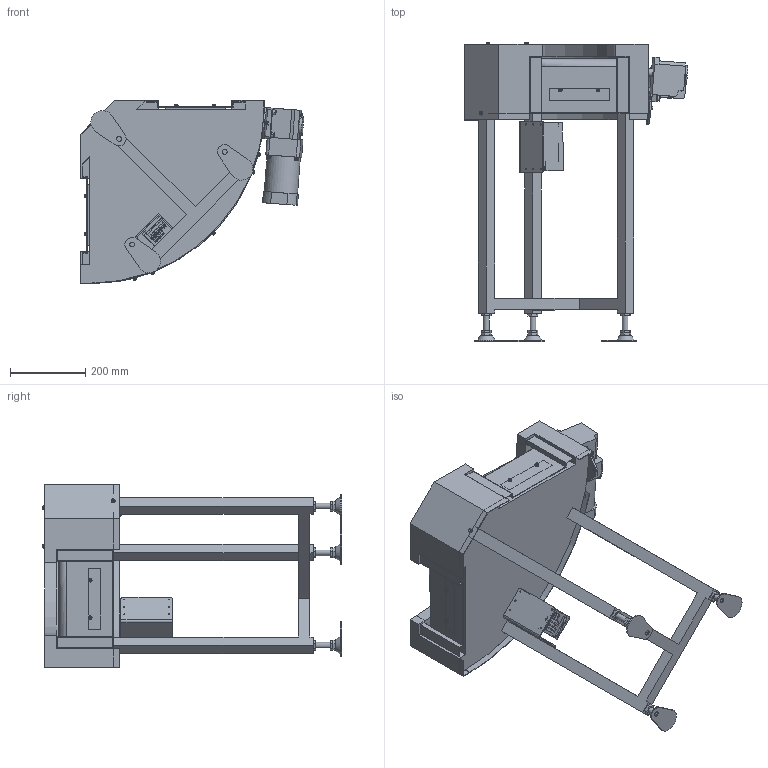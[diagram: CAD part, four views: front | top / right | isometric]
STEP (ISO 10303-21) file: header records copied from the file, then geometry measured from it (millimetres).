
FILE_DESCRIPTION( (''), '2;1');
FILE_NAME ('WEB-MBC2H-HS-309-200-90°-R-IVH-60-O.stp','2026-06-19T10:35:31',(''),(''),'spGate 21.9.5 (****-****-****-****)','','');
FILE_SCHEMA (('AUTOMOTIVE_DESIGN'));
Length unit declared in the file: millimetre
Products named in the file (37): WEB-MBC2H-HS-309-200-90_-R-IVH-60-O; TEMP_X_T-prt0; TEMP_X_T-prt1; TEMP_X_T-prt2; TEMP_X_T-prt3; TEMP_X_T-prt4; TEMP_X_T-prt5; TEMP_X_T-prt6; TEMP_X_T-prt7; TEMP_X_T-prt8; TEMP_X_T-prt9; TEMP_X_T-prt10; TEMP_X_T-prt11; TEMP_X_T-prt12; TEMP_X_T-prt13; TEMP_X_T-prt14; TEMP_X_T-prt15; TEMP_X_T-prt16; TEMP_X_T-prt17; TEMP_X_T-prt18; TEMP_X_T-prt19; TEMP_X_T-prt20; TEMP_X_T-prt21; TEMP_X_T-prt22; TEMP_X_T-prt23; TEMP_X_T-prt24; TEMP_X_T-prt25; TEMP_X_T-prt26; TEMP_X_T-prt27; TEMP_X_T-prt28; TEMP_X_T-prt29; TEMP_X_T-prt30; TEMP_X_T-prt31; TEMP_X_T-prt32; TEMP_X_T-prt33; TEMP_X_T-prt34; TEMP_X_T-prt35
Assembly tree (36 placements, depth 2):
  WEB-MBC2H-HS-309-200-90_-R-IVH-60-O
    TEMP_X_T-prt0
    TEMP_X_T-prt1
    TEMP_X_T-prt2
    TEMP_X_T-prt3
    TEMP_X_T-prt4
    TEMP_X_T-prt5
    TEMP_X_T-prt6
    TEMP_X_T-prt7
    TEMP_X_T-prt8
    TEMP_X_T-prt9
    TEMP_X_T-prt10
    TEMP_X_T-prt11
    TEMP_X_T-prt12
    TEMP_X_T-prt13
    TEMP_X_T-prt14
    TEMP_X_T-prt15
    TEMP_X_T-prt16
    TEMP_X_T-prt17
    TEMP_X_T-prt18
    TEMP_X_T-prt19
    TEMP_X_T-prt20
    TEMP_X_T-prt21
    TEMP_X_T-prt22
    TEMP_X_T-prt23
    TEMP_X_T-prt24
    TEMP_X_T-prt25
    TEMP_X_T-prt26
    TEMP_X_T-prt27
    TEMP_X_T-prt28
    TEMP_X_T-prt29
    TEMP_X_T-prt30
    TEMP_X_T-prt31
    TEMP_X_T-prt32
    TEMP_X_T-prt33
    TEMP_X_T-prt34
    TEMP_X_T-prt35
Bounding box: 593.1 x 794.6 x 488.1 mm (x, y, z)
Volume: 24093910.3 mm3; surface area: 1917766.7 mm2
Topology: 34 solids, 44 shells, 1481 faces, 3823 edges, 2584 vertices
Faces by surface type: plane 1144, cylinder 219, bspline 114, sphere 4
Full cylindrical faces by diameter (mm): 3.3 x6, 3.5 x12, 3.8 x2, 4 x10, 5 x1, 5.6 x2, 5.8 x10, 6 x7, 6.4 x4, 6.5 x6, 6.6 x2, 7 x3, 7.5 x1, 8 x5, 8.5 x4, 9 x16, 9.2 x13, 10 x18, 12 x1, 12.5 x4, 13 x5, 16 x9, 20 x1, 23 x1, 50 x2, 52 x1, 89 x1
Entity records: 81562 total; most frequent: CARTESIAN_POINT 13913, ORIENTED_EDGE 7622, DIRECTION 7160, COLOUR_RGB 5328, PRESENTATION_STYLE_ASSIGNMENT 5328, STYLED_ITEM 5328, EDGE_CURVE 3811, DRAUGHTING_PRE_DEFINED_CURVE_FONT 3811
